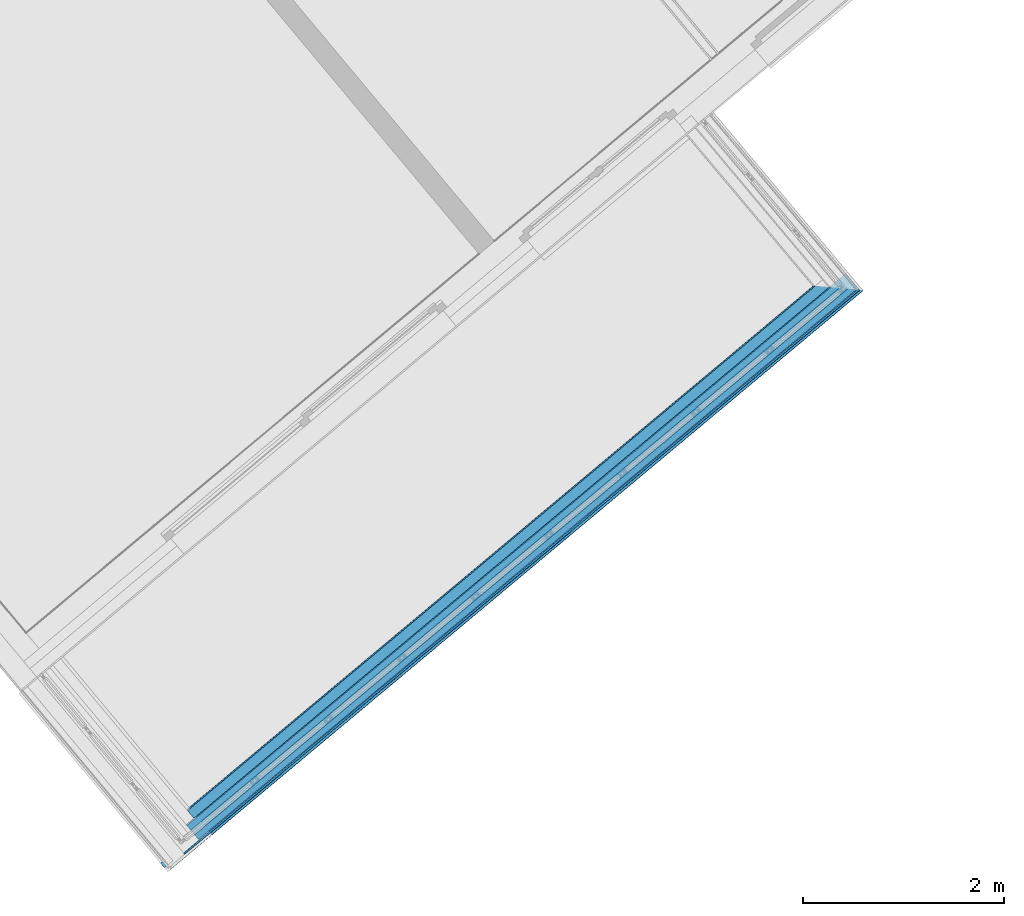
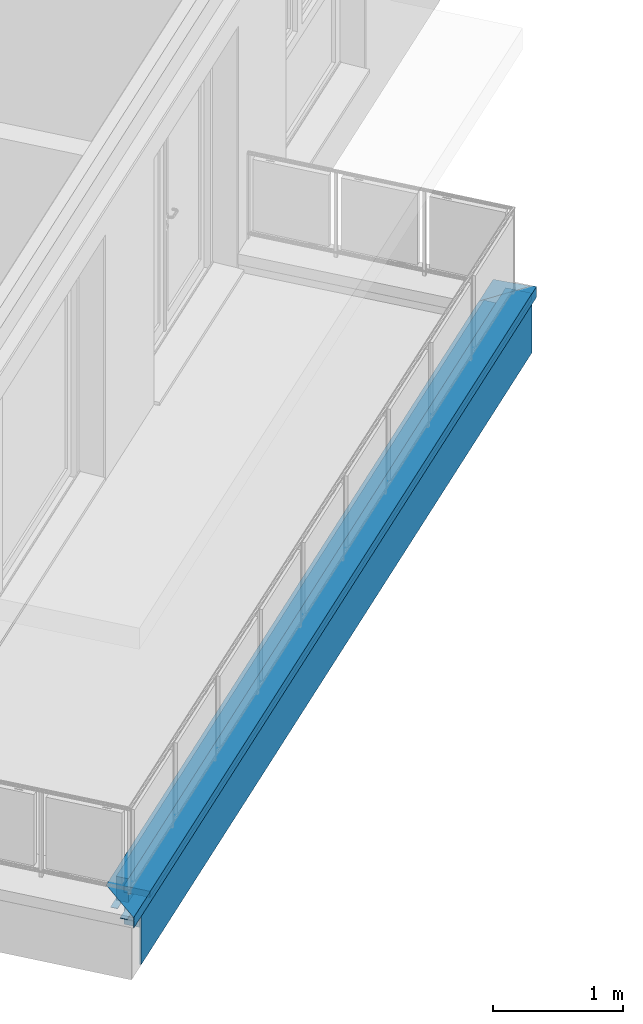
# One storey, part 17 of 50: 8 building element parts, 1 element without a shape of its own.
"""IFC4 building model written with IfcOpenShell, lengths in metres."""

from ifc_helpers import new_model, entity, si_unit, converted_unit, derived_unit, direction, frame, origin_with_axes, place, context, subcontext, project, spatial, polygons, material, type_object, element, aggregate, save


model = new_model("IFC4")

# Units and contexts
model_context = context("Model", 3, precision=1e-05, world=origin_with_axes(), true_north=direction((0.0, 1.0)))
body_context = subcontext(model_context, "Body", "Model", "MODEL_VIEW")
ifc_project = project(units=[si_unit("LENGTHUNIT", "METRE"), si_unit("AREAUNIT", "SQUARE_METRE"), si_unit("VOLUMEUNIT", "CUBIC_METRE"), converted_unit("PLANEANGLEUNIT", "DEGREE", entity("IfcPlaneAngleMeasure", 0.0174532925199), si_unit("PLANEANGLEUNIT", "RADIAN"), dimensions=[0, 0, 0, 0, 0, 0, 0]), converted_unit("TIMEUNIT", "Year", entity("IfcTimeMeasure", 31556926.0), si_unit("TIMEUNIT", "SECOND"), dimensions=[0, 0, 1, 0, 0, 0, 0]), si_unit("MASSUNIT", "GRAM", prefix="KILO"), si_unit("THERMODYNAMICTEMPERATUREUNIT", "DEGREE_CELSIUS"), si_unit("LUMINOUSINTENSITYUNIT", "LUMEN"), si_unit("ENERGYUNIT", "JOULE", prefix="MEGA"), derived_unit("THERMALCONDUCTANCEUNIT", [(si_unit("POWERUNIT", "WATT"), 1), (si_unit("LENGTHUNIT", "METRE"), -1), (si_unit("THERMODYNAMICTEMPERATUREUNIT", "KELVIN"), -1)]), derived_unit("SPECIFICHEATCAPACITYUNIT", [(si_unit("ENERGYUNIT", "JOULE"), 1), (si_unit("MASSUNIT", "GRAM", prefix="KILO"), -1), (si_unit("THERMODYNAMICTEMPERATUREUNIT", "KELVIN"), -1)]), derived_unit("MASSDENSITYUNIT", [(si_unit("MASSUNIT", "GRAM", prefix="KILO"), 1), (si_unit("VOLUMEUNIT", "CUBIC_METRE"), -1)])], contexts=[model_context])

# Site, building, storey
site_placement = place(None, frame((-0.00153261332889, -0.00661245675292, 0.0), z_axis=(0.0, 0.0, 1.0), x_axis=(1.0, 0.0, 0.0)))
site = spatial("IfcSite", under=ifc_project, at=site_placement, Name="Site", CompositionType="ELEMENT")
building_placement = place(site_placement, origin_with_axes())
building = spatial("IfcBuilding", under=site, at=building_placement, Name="Building", CompositionType="ELEMENT")
storey_placement = place(building_placement, frame((0.0, 0.0, 2.74), z_axis=(0.0, 0.0, 1.0), x_axis=(1.0, 0.0, 0.0)))
storey = spatial("IfcBuildingStorey", under=building, at=storey_placement, Name="OG1", CompositionType="ELEMENT", Elevation=2.74)

# Wall, building element parts
wall_type = type_object("IfcWallType", Name="Bauteil - Attika Balkon 356 x 610", PredefinedType="NOTDEFINED")
wall_placement = place(storey_placement, frame((0.456081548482, 6.75437498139, -0.2), z_axis=(0.0, 0.0, 1.0), x_axis=(0.767288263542, 0.641302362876, 0.0)))
wall = element("IfcWall", 1, at=wall_placement, inside=storey, type_object=wall_type, Name="Wand-003", PredefinedType="NOTDEFINED")
ifc_material_1 = material(Name="Stahl")
building_element_part_1_placement = place(wall_placement, origin_with_axes())
building_element_part_1 = element("IfcBuildingElementPart", 2, at=building_element_part_1_placement, material=ifc_material_1, Name="Stahl", PredefinedType="NOTDEFINED", context=body_context, shape_type="Tessellation", body=[
    polygons([(-0.241610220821, -0.241359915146, 0.608602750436), (-0.241610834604, -0.242707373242, 0.608602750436), (-0.24161032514, -0.242707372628, 0.608652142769), (-0.24160949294, -0.24135992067, 0.60865214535), (-0.240263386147, -0.242707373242, 0.608602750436), (-0.240262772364, -0.241359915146, 0.608602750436), (-0.241610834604, -0.242707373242, 0.581921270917), (-0.241610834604, -0.242707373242, 0.575979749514), (-0.240261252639, -0.242707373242, 0.575979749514), (-0.240261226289, -0.242707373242, 0.575576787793), (-0.240261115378, -0.242707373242, 0.573880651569), (-0.240260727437, -0.242707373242, 0.567947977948), (-0.240260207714, -0.242707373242, 0.559999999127), (-0.240257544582, -0.242707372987, 0.519273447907), (-0.240257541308, -0.242707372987, 0.519224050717), (-0.240257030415, -0.242707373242, 0.511410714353), (-0.240207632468, -0.242707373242, 0.511410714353), (-0.23829307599, -0.242707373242, 0.511410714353), (-0.238342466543, -0.242707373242, 0.511361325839), (-0.239646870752, -0.242707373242, 0.510056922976), (8.77665950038, -0.242707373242, 0.510056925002), (8.77665950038, -0.242707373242, 0.610055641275), (0.0, -0.242707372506, 0.610055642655), (0.0, -0.242707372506, 0.610006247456), (-0.241610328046, -0.242707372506, 0.610006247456), (-0.204205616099, -0.242707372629, 0.608652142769), (-0.24026338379, -0.242707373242, 0.608570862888), (-0.240262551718, -0.242707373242, 0.595846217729), (-0.240262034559, -0.242707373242, 0.587937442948), (-0.240261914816, -0.242707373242, 0.586106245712), (-0.240261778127, -0.242707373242, 0.584015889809), (-0.240261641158, -0.242707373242, 0.581921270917), (-0.204205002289, -0.241359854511, 0.608652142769), (-0.24161021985, -0.241357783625, 0.575979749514), (-0.241610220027, -0.241358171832, 0.581921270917), (-0.240261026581, -0.241358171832, 0.581921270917), (-0.240261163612, -0.24135830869, 0.584015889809), (-0.240261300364, -0.24135844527, 0.586106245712), (-0.240261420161, -0.241358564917, 0.587937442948), (-0.240261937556, -0.24135908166, 0.595846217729), (-0.240262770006, -0.241359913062, 0.608570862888), (8.77530901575, -0.241359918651, 0.608652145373), (8.77665646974, -0.24135992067, 0.60865214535), (8.77665645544, -0.241353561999, 0.511410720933), (8.77530264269, -0.241353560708, 0.511410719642), (-0.238292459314, -0.241353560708, 0.511410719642), (-0.240207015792, -0.241353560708, 0.511410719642), (-0.240256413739, -0.241353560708, 0.511410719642), (-0.240256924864, -0.241354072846, 0.519224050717), (-0.240256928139, -0.241354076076, 0.519273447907), (-0.240259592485, -0.241356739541, 0.559999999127), (-0.240260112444, -0.241357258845, 0.567947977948), (-0.240260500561, -0.241357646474, 0.573880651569), (-0.240260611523, -0.241357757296, 0.575576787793), (-0.240260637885, -0.241357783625, 0.575979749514), (-0.23829158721, -0.239439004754, 0.511410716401), (-0.238341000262, -0.239488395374, 0.511361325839), (-0.240603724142, -0.241750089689, 0.509099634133), (8.77570006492, -0.241750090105, 0.509099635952), (8.77665519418, -0.240792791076, 0.510056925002), (8.77665215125, -0.239439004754, 0.511410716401), (8.77657233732, -0.203952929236, 0.60865214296), (-0.204187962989, -0.203952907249, 0.608652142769), (-0.241609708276, -0.241343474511, 0.610006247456), (0.0, -0.241343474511, 0.610006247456), (8.77522488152, -0.203952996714, 0.608652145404), (8.77313639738, -0.201708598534, 0.608570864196), (8.45697235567, 0.113600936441, 0.597151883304), (0.113635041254, 0.113600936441, 0.597151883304), (-0.201941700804, -0.201708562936, 0.608570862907), (-0.20282294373, -0.202589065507, 0.608602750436), (-0.202840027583, -0.240093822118, 0.608602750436), (-0.201958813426, -0.23927647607, 0.608570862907), (8.77322089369, -0.23927649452, 0.608570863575), (8.77529833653, -0.239439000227, 0.511410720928), (-0.240253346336, -0.233490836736, 0.519273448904), (-0.240253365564, -0.233540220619, 0.519224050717), (-0.232390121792, -0.233540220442, 0.519224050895), (-0.231480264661, -0.23454447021, 0.518219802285), (8.7674222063, -0.233490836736, 0.519273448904), (-0.231479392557, -0.232629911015, 0.518219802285), (-0.231524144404, -0.232580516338, 0.518269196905), (8.76842441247, -0.232580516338, 0.518269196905), (8.42090574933, 0.112247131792, 0.5958462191), (8.4209027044, 0.113600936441, 0.5958462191), (0.149702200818, 0.113600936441, 0.595846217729), (8.4209026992, 0.113600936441, 0.586106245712), (8.42090269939, 0.113600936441, 0.584015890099), (8.42090269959, 0.113600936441, 0.581921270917), (8.42090269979, 0.113600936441, 0.579822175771), (8.42090270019, 0.113600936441, 0.575576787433), (8.42090270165, 0.113600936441, 0.560000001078), (8.42090270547, 0.113600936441, 0.519273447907), (8.4209027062, 0.113600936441, 0.511410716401), (8.42090270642, 0.113600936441, 0.509099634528), (8.4209027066, 0.113600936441, 0.506731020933), (8.42090270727, 0.113600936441, 0.499999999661), (8.42090270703, 0.113600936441, 0.498915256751), (8.4228172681, 0.113600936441, 0.498915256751), (8.42146345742, 0.113600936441, 0.497561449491), (0.332103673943, 0.113600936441, 0.497561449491), (0.332103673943, 0.113600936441, 0.498822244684), (0.332103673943, 0.113600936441, 0.498915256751), (0.332103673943, 0.113600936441, 0.499999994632), (0.332103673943, 0.113600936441, 0.506731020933), (0.332103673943, 0.113600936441, 0.509050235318), (0.332103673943, 0.113600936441, 0.509099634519), (0.332103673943, 0.113600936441, 0.51136132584), (0.332103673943, 0.113600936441, 0.511410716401), (0.332103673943, 0.113600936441, 0.519224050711), (0.332103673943, 0.113600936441, 0.519273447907), (0.332103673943, 0.113600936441, 0.560000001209), (0.332103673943, 0.113600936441, 0.567947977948), (0.332103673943, 0.113600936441, 0.573880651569), (0.332103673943, 0.113600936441, 0.575576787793), (0.332103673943, 0.113600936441, 0.575979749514), (0.332103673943, 0.113600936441, 0.57982217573), (0.332103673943, 0.113600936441, 0.581921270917), (0.332103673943, 0.113600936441, 0.584015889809), (0.332103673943, 0.113600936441, 0.586106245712), (0.332103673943, 0.113600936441, 0.587937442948), (0.332103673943, 0.113600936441, 0.589243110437), (0.149701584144, 0.112247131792, 0.595846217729), (-0.240253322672, -0.233446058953, 0.519224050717), (-0.2323900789, -0.233446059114, 0.519224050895), (8.42090574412, 0.112247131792, 0.586106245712), (8.42090574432, 0.112247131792, 0.584015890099), (8.42090574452, 0.112247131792, 0.581921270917), (8.42090574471, 0.112247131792, 0.579822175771), (8.42090574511, 0.112247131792, 0.575576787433), (8.42090574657, 0.112247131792, 0.560000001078), (8.42090575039, 0.112247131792, 0.519273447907), (8.42090575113, 0.112247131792, 0.511410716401), (8.42090575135, 0.112247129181, 0.509099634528), (8.42090575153, 0.112247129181, 0.506731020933), (8.4209057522, 0.112247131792, 0.499999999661), (8.42090575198, 0.112247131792, 0.498915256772), (8.42282031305, 0.112247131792, 0.498915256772), (8.42282461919, 0.110332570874, 0.498915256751), (8.42050832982, 0.112643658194, 0.496604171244), (0.332103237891, 0.112643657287, 0.496604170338), (0.332102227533, 0.110425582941, 0.498822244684), (0.332103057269, 0.112247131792, 0.498915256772), (0.332102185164, 0.110332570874, 0.498915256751), (0.332103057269, 0.112247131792, 0.499999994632), (0.332103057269, 0.112247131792, 0.506731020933), (0.332103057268, 0.112247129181, 0.509050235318), (0.332103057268, 0.112247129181, 0.509099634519), (0.332103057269, 0.112247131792, 0.51136132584), (0.332103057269, 0.112247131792, 0.511410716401), (0.332103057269, 0.112247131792, 0.519224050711), (0.332103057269, 0.112247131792, 0.519273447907), (0.332103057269, 0.112247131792, 0.560000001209), (0.332103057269, 0.112247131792, 0.567947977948), (0.332103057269, 0.112247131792, 0.573880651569), (0.332103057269, 0.112247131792, 0.575576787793), (0.332103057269, 0.112247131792, 0.575979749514), (0.332103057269, 0.112247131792, 0.57982217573), (0.332103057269, 0.112247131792, 0.581921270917), (0.332103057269, 0.112247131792, 0.584015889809), (0.332103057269, 0.112247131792, 0.586106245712), (0.332103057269, 0.112247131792, 0.587937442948), (0.332103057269, 0.112247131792, 0.589243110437), (0.330748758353, 0.11116240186, 0.499999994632), (0.300050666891, 0.11116240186, 0.499999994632), (0.300047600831, 0.104431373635, 0.506731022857), (8.42873910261, 0.104431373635, 0.506731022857), (8.42974130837, 0.10534169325, 0.505820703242), (8.42390749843, 0.11116239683, 0.499999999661), (0.33074925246, 0.112247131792, 0.498915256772), (0.300049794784, 0.109247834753, 0.499999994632), (0.330747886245, 0.109247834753, 0.499999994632), (0.330748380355, 0.110332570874, 0.498915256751), (8.4239118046, 0.109247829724, 0.499999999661), (8.42974561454, 0.103427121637, 0.505820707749), (0.300047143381, 0.103427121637, 0.505820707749)], [[[1, 2, 3, 4]], [[5, 2, 1, 6]], [[7, 8, 9, 10, 11, 12, 13, 14, 15, 16, 17, 18, 19, 20, 21, 22, 23, 24, 25, 26, 3, 2, 5, 27, 28, 29, 30, 31, 32]], [[4, 3, 26, 33]], [[34, 35, 36, 37, 38, 39, 40, 41, 6, 1, 4, 33, 42, 43, 44, 45, 46, 47, 48, 49, 50, 51, 52, 53, 54, 55]], [[27, 5, 6, 41]], [[8, 7, 35, 34]], [[9, 8, 34, 55]], [[10, 9, 55, 54]], [[11, 10, 54, 53]], [[12, 11, 53, 52]], [[13, 12, 52, 51]], [[14, 13, 51, 50]], [[15, 14, 50, 49]], [[48, 16, 15, 49]], [[16, 48, 47, 17]], [[17, 47, 46, 18]], [[56, 57, 19, 18, 46]], [[57, 58, 20, 19]], [[20, 58, 59, 21]], [[21, 60, 61, 44, 43, 62, 22]], [[63, 64, 65, 23, 22, 62, 66, 67, 68, 69, 70, 71]], [[65, 24, 23]], [[64, 25, 24, 65]], [[25, 64, 63, 33, 26]], [[28, 27, 41, 40]], [[29, 28, 40, 39]], [[30, 29, 39, 38]], [[31, 30, 38, 37]], [[32, 31, 37, 36]], [[35, 7, 32, 36]], [[72, 73, 74, 42, 33]], [[42, 66, 62, 43]], [[75, 45, 44, 61]], [[76, 77, 78, 79, 46, 45, 80]], [[58, 57, 56, 81, 82, 83, 75, 61, 60, 59]], [[56, 46, 79, 81]], [[21, 59, 60]], [[67, 66, 42, 74]], [[67, 74, 84, 85, 68]], [[86, 69, 68, 85, 87, 88, 89, 90, 91, 92, 93, 94, 95, 96, 97, 98, 99, 100, 101, 102, 103, 104, 105, 106, 107, 108, 109, 110, 111, 112, 113, 114, 115, 116, 117, 118, 119, 120, 121, 122]], [[123, 73, 70, 69, 86]], [[71, 70, 73, 72]], [[63, 71, 72, 33]], [[73, 123, 84, 74]], [[45, 75, 83, 80]], [[76, 124, 77]], [[77, 124, 125, 78]], [[125, 82, 81, 79, 78]], [[124, 76, 80, 83, 82, 125]], [[84, 126, 87, 85]], [[126, 127, 88, 87]], [[89, 88, 127, 128]], [[90, 89, 128, 129]], [[91, 90, 129, 130]], [[130, 131, 92, 91]], [[131, 132, 93, 92]], [[132, 133, 94, 93]], [[133, 134, 95, 94]], [[134, 135, 96, 95]], [[135, 136, 97, 96]], [[136, 137, 98, 97]], [[98, 137, 138, 99]], [[139, 140, 100, 99, 138]], [[141, 101, 100, 140]], [[142, 102, 101, 141]], [[143, 103, 102, 142, 144]], [[103, 143, 145, 104]], [[104, 145, 146, 105]], [[147, 106, 105, 146]], [[106, 147, 148, 107]], [[148, 149, 108, 107]], [[149, 150, 109, 108]], [[150, 151, 110, 109]], [[151, 152, 111, 110]], [[152, 153, 112, 111]], [[153, 154, 113, 112]], [[154, 155, 114, 113]], [[155, 156, 115, 114]], [[115, 156, 157, 116]], [[116, 157, 158, 117]], [[117, 158, 159, 118]], [[118, 159, 160, 119]], [[119, 160, 161, 120]], [[120, 161, 162, 121]], [[121, 162, 163, 122]], [[123, 86, 122, 163]], [[145, 143, 137, 136, 135, 134, 133, 132, 131, 130, 129, 128, 127, 126, 84, 123, 163, 162, 161, 160, 159, 158, 157, 156, 155, 154, 153, 152, 151, 150, 149, 148, 147, 146]], [[164, 165, 166, 167, 168, 169, 138, 137, 143, 170]], [[171, 172, 173, 144, 142, 141, 140, 139, 174, 175, 176]], [[174, 139, 138, 169]], [[170, 143, 144, 173]], [[171, 165, 164, 172]], [[165, 171, 176, 166]], [[166, 176, 175, 167]], [[168, 167, 175]], [[175, 174, 169, 168]], [[164, 170, 173, 172]]], closed=True),
])
ifc_material_2 = material(Name="Holzwerkstoff")
building_element_part_2_placement = place(wall_placement, origin_with_axes())
building_element_part_2 = element("IfcBuildingElementPart", 3, at=building_element_part_2_placement, material=ifc_material_2, Name="Holzwerkstoff", PredefinedType="NOTDEFINED", context=body_context, shape_type="Tessellation", body=[
    polygons([(0.330547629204, -0.189984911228, 0.586106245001), (0.330501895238, -0.13012497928, 0.584015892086), (8.66382360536, -0.130124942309, 0.584015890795), (8.72381840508, -0.189984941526, 0.586106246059), (0.330612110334, 0.111834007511, 0.584015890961), (0.330685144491, 0.111907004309, 0.586106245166), (0.330456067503, -0.0701429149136, 0.581921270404), (8.60370647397, -0.0701429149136, 0.581921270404), (8.66327940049, 0.111834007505, 0.584015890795), (8.72313932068, 0.111907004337, 0.586106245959), (0.330585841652, -0.23999998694, 0.587852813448), (8.77394602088, -0.239999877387, 0.587852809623), (0.330538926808, 0.111760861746, 0.581921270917), (0.330749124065, 0.111970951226, 0.587937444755), (0.330588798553, -0.239997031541, 0.587937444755), (0.112278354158, 0.112247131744, 0.595846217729), (8.77287462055, 0.112247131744, 0.595846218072), (8.77315438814, 0.111967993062, 0.587852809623), (8.60329734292, 0.111760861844, 0.581921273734), (8.54318713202, 0.111687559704, 0.579822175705), (8.42161516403, 0.111539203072, 0.575576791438), (0.33031725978, 0.111539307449, 0.575576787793), (0.330331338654, 0.111553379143, 0.57597974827), (0.330465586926, 0.111687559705, 0.57982217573), (0.330410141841, -0.0100326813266, 0.579822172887), (8.54346090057, -0.0100326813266, 0.579822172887), (-0.239385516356, -0.239276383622, 0.608570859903), (0.112118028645, -0.239720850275, 0.595846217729), (8.77366625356, -0.239720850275, 0.595846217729), (8.77322089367, -0.23927649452, 0.608570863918), (0.330326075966, 0.100000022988, 0.575979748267)], [[[1, 2, 3, 4]], [[5, 2, 1, 6]], [[2, 7, 8, 3]], [[9, 10, 4, 3]], [[11, 1, 4, 12]], [[7, 2, 5, 13]], [[14, 6, 1, 11, 15]], [[14, 16, 17, 18, 10, 9, 19, 20, 21, 22, 23, 24, 13, 5, 6]], [[7, 25, 26, 8]], [[8, 19, 9, 3]], [[10, 18, 12, 4]], [[27, 28, 15, 11, 12, 29, 30]], [[25, 7, 13, 24]], [[28, 16, 14, 15]], [[16, 27, 30, 17]], [[18, 17, 29, 12]], [[8, 26, 20, 19]], [[26, 21, 20]], [[31, 22, 21, 26, 25]], [[23, 22, 31]], [[25, 24, 23, 31]], [[16, 28, 27]], [[30, 29, 17]]], closed=True),
])
ifc_material_3 = material(Name="EPS 1")
building_element_part_3_placement = place(wall_placement, origin_with_axes())
building_element_part_3 = element("IfcBuildingElementPart", 4, at=building_element_part_3_placement, material=ifc_material_3, Name="EPS 1", PredefinedType="NOTDEFINED", context=body_context, shape_type="Tessellation", body=[
    polygons([(0.300000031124, -2.3990853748e-10, 0.335), (0.300000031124, -2.3990853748e-10, 0.488695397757), (0.300045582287, 0.0999999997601, 0.488695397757), (0.300045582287, 0.0999999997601, 0.335), (8.53340562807, -2.3990853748e-10, 0.334999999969), (8.53340562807, -2.3990853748e-10, 0.496604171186), (8.53340562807, -2.3990853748e-10, 0.498915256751), (8.53340562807, -2.3990853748e-10, 0.500000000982), (8.53340562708, -2.39907649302e-10, 0.506731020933), (8.53340562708, -2.39905872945e-10, 0.509099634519), (8.53340562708, -1.02249231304e-09, 0.511410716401), (8.53340562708, -1.02255448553e-09, 0.519273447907), (8.53340562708, -1.02287334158e-09, 0.560000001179), (0.300000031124, -2.39909425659e-10, 0.560000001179), (0.300000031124, 1.28497745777e-09, 0.519273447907), (0.300000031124, 1.28497745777e-09, 0.519224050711), (0.300000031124, -2.39907649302e-10, 0.511410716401), (0.300000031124, -2.39907649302e-10, 0.51136132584), (0.300000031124, -2.39907649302e-10, 0.509099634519), (0.300000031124, -2.39907649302e-10, 0.509050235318), (0.300000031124, -2.39907649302e-10, 0.506731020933), (0.300000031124, -2.39907649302e-10, 0.499999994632), (0.300000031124, -2.39907649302e-10, 0.498915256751), (0.300000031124, -2.39907649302e-10, 0.498822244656), (0.300000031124, -2.39907649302e-10, 0.496604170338), (0.300000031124, -2.3990853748e-10, 0.491006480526), (0.300045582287, 0.0999999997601, 0.491006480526), (0.300045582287, 0.0999999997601, 0.496604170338), (0.300045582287, 0.0999999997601, 0.498822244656), (0.300045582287, 0.0999999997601, 0.498915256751), (0.300045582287, 0.0999999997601, 0.499999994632), (0.300045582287, 0.0999999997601, 0.506731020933), (0.300045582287, 0.0999999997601, 0.509050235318), (0.300045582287, 0.0999999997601, 0.509099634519), (0.300045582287, 0.0999999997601, 0.51136132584), (0.300045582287, 0.0999999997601, 0.511410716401), (0.300045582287, 0.0999999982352, 0.519224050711), (0.300045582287, 0.0999999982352, 0.519273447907), (0.300045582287, 0.0999999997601, 0.560000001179), (8.53318071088, 0.100000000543, 0.560000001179), (8.53318071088, 0.100000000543, 0.519273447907), (8.53318071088, 0.100000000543, 0.511410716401), (8.53318071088, 0.0999999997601, 0.509099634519), (8.53318071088, 0.0999999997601, 0.506731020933), (8.53318071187, 0.0999999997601, 0.500000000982), (8.53318071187, 0.0999999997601, 0.498915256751), (8.53318071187, 0.0999999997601, 0.496604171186), (8.53318071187, 0.0999999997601, 0.334999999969)], [[[1, 2, 3, 4]], [[2, 1, 5, 6, 7, 8, 9, 10, 11, 12, 13, 14, 15, 16, 17, 18, 19, 20, 21, 22, 23, 24, 25, 26]], [[2, 26, 27, 3]], [[4, 3, 27, 28, 29, 30, 31, 32, 33, 34, 35, 36, 37, 38, 39, 40, 41, 42, 43, 44, 45, 46, 47, 48]], [[1, 4, 48, 5]], [[6, 5, 48, 47]], [[7, 6, 47, 46]], [[8, 7, 46, 45]], [[9, 8, 45, 44]], [[10, 9, 44, 43]], [[11, 10, 43, 42]], [[42, 41, 12, 11]], [[41, 40, 13, 12]], [[39, 14, 13, 40]], [[14, 39, 38, 15]], [[37, 16, 15, 38]], [[36, 17, 16, 37]], [[35, 18, 17, 36]], [[34, 19, 18, 35]], [[19, 34, 33, 20]], [[32, 21, 20, 33]], [[21, 32, 31, 22]], [[30, 23, 22, 31]], [[29, 24, 23, 30]], [[28, 25, 24, 29]], [[26, 25, 28, 27]]], closed=True),
])
ifc_material_4 = material(Name="Vollholz")
building_element_part_4_placement = place(wall_placement, origin_with_axes())
building_element_part_4 = element("IfcBuildingElementPart", 5, at=building_element_part_4_placement, material=ifc_material_4, Name="Vollholz", PredefinedType="NOTDEFINED", context=body_context, shape_type="Tessellation", body=[
    polygons([(-0.130156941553, -0.0701429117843, 0.575979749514), (-0.130129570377, -0.0100540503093, 0.575979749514), (0.0999954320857, -0.010054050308, 0.575979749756), (0.0999680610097, -0.0701429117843, 0.575979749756), (-0.130156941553, -0.0701429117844, 0.57982217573), (-0.130129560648, -0.0100326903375, 0.57982217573), (8.60357127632, -0.0100326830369, 0.579822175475), (8.60357132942, -0.0100562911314, 0.575576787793), (8.60357152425, -0.0101429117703, 0.560000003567), (0.159995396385, -0.0101429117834, 0.560000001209), (0.160058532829, -0.0100987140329, 0.567947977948), (0.160105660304, -0.0100657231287, 0.573880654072), (0.111534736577, -0.0100562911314, 0.575576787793), (0.111507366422, -0.0701429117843, 0.575576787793), (0.160078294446, -0.0701429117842, 0.573880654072), (0.160031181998, -0.0701429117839, 0.567947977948), (0.159968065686, -0.0701429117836, 0.560000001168), (8.60370647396, -0.0701429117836, 0.560000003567), (8.60370647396, -0.0701429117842, 0.575576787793), (8.60370647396, -0.0701429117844, 0.57982217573), (8.60370647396, -0.0701429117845, 0.581921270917), (-0.130156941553, -0.0701429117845, 0.581921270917)], [[[1, 2, 3, 4]], [[1, 5, 6, 2]], [[2, 6, 7, 8, 9, 10, 11, 12, 13, 3]], [[3, 13, 14, 4]], [[5, 1, 4, 14, 15, 16, 17, 18, 19, 20, 21, 22]], [[5, 22, 6]], [[6, 22, 21, 7]], [[8, 7, 20, 19]], [[9, 8, 19, 18]], [[17, 10, 9, 18]], [[10, 17, 16, 11]], [[16, 15, 12, 11]], [[14, 13, 12, 15]], [[21, 20, 7]]], closed=True),
])
ifc_material_5 = material(Name="Stahlbeton")
building_element_part_5_placement = place(wall_placement, origin_with_axes())
building_element_part_5 = element("IfcBuildingElementPart", 6, at=building_element_part_5_placement, material=ifc_material_5, Name="Stahlbeton", PredefinedType="NOTDEFINED", context=body_context, shape_type="Tessellation", body=[
    polygons([(8.73385592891, -0.19999996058, 0.498915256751), (8.73385592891, -0.199999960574, 0.500000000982), (0.199908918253, -0.199999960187, 0.500000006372), (0.199908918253, -0.19999996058, 0.498915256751), (0.199908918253, -0.19999996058, 0.498822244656), (0.199908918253, -0.19999996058, 0.496604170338), (0.199908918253, -0.19999996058, 0.491006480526), (0.199908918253, -0.19999996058, 0.488695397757), (0.199908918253, -0.19999996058, 0.334999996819), (0.199908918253, -0.19999996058, 0.200000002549), (8.73385592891, -0.19999996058, 0.2), (8.73385592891, -0.19999996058, 0.334999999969), (8.73385592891, -0.19999996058, 0.496604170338), (8.73340609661, -1.0464678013e-09, 0.500000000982), (8.73340609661, -1.04714992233e-09, 0.498915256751), (0.200000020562, -6.59100329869e-10, 0.500000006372), (0.200000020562, -1.04714903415e-09, 0.498915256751), (0.200000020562, -1.04714903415e-09, 0.498822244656), (0.200000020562, -1.04714903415e-09, 0.496604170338), (0.200000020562, -1.04714903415e-09, 0.491006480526), (0.200000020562, -1.04714903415e-09, 0.488695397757), (0.200000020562, -1.05297282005e-09, 0.334999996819), (0.200000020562, -1.05297193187e-09, 0.200000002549), (8.73340609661, -1.05297282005e-09, 0.2), (8.73340609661, -1.05297282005e-09, 0.334999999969), (8.73340609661, -1.04714992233e-09, 0.496604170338)], [[[1, 2, 3, 4, 5, 6, 7, 8, 9, 10, 11, 12, 13]], [[14, 2, 1, 15]], [[2, 14, 16, 3]], [[4, 3, 16, 17]], [[4, 17, 18, 5]], [[5, 18, 19, 6]], [[6, 19, 20, 7]], [[7, 20, 21, 8]], [[8, 21, 22, 9]], [[9, 22, 23, 10]], [[24, 11, 10, 23]], [[25, 12, 11, 24]], [[26, 13, 12, 25]], [[15, 1, 13, 26]], [[14, 15, 26, 25, 22, 21, 20, 19, 18, 17, 16]], [[25, 24, 23, 22]]], closed=True),
])
ifc_material_6 = material(Name="Brettschichtholz")
building_element_part_6_placement = place(wall_placement, origin_with_axes())
building_element_part_6 = element("IfcBuildingElementPart", 7, at=building_element_part_6_placement, material=ifc_material_6, Name="Brettschichtholz", PredefinedType="NOTDEFINED", context=body_context, shape_type="Tessellation", body=[
    polygons([(0.200000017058, 0.0, 0.51136132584), (0.199902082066, -0.214999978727, 0.51136132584), (0.199902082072, -0.214999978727, 0.511410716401), (0.200000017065, 0.0, 0.511410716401), (0.200000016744, 0.0, 0.509099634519), (0.199902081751, -0.214999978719, 0.509099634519), (0.199902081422, -0.214999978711, 0.506731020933), (0.199902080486, -0.214999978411, 0.500000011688), (8.7488897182, -0.214999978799, 0.499999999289), (8.7488897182, -0.214999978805, 0.509099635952), (8.74888971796, -0.214999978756, 0.511410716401), (8.74888971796, -0.214999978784, 0.519273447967), (8.74888971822, -0.214999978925, 0.56000000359), (0.19990208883, -0.214999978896, 0.560000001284), (0.199902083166, -0.214999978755, 0.519273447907), (0.199902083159, -0.214999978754, 0.519224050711), (0.199902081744, -0.214999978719, 0.509050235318), (0.200000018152, 0.0, 0.519224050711), (0.200000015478, 3.31760396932e-10, 0.500000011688), (0.200000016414, 0.0, 0.506731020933), (0.200000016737, 0.0, 0.509050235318), (0.200000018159, 0.0, 0.519273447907), (0.200000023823, -1.53405288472e-10, 0.560000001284), (8.74840614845, -1.82521553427e-10, 0.56000000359), (8.74840614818, 0.0, 0.519273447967), (8.74840614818, 0.0, 0.511410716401), (8.74840614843, 0.0, 0.509099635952), (8.74840614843, 0.0, 0.499999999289), (8.74842896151, -0.010142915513, 0.559999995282), (8.74856391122, -0.0701429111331, 0.559999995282), (8.74869882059, -0.130124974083, 0.559999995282), (8.74883377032, -0.190124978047, 0.559999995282), (0.199913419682, -0.190124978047, 0.559999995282), (0.199940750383, -0.130124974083, 0.559999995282), (0.19996807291, -0.0701429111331, 0.559999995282), (0.199995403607, -0.010142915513, 0.559999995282)], [[[1, 2, 3, 4]], [[5, 6, 2, 1]], [[7, 8, 9, 10, 11, 12, 13, 14, 15, 16, 3, 2, 6, 17]], [[4, 3, 16, 18]], [[19, 20, 21, 5, 1, 4, 18, 22, 23, 24, 25, 26, 27, 28]], [[6, 5, 21, 17]], [[19, 8, 7, 20]], [[8, 19, 28, 9]], [[28, 27, 10, 9]], [[27, 26, 11, 10]], [[26, 25, 12, 11]], [[29, 30, 31, 32, 13, 12, 25, 24]], [[33, 14, 13, 32]], [[34, 35, 36, 23, 22, 15, 14, 33]], [[18, 16, 15, 22]], [[20, 7, 17, 21]], [[23, 36, 29, 24]], [[36, 35, 30, 29]], [[35, 34, 31, 30]], [[34, 33, 32, 31]]], closed=True),
])
building_element_part_7_placement = place(wall_placement, origin_with_axes())
building_element_part_7 = element("IfcBuildingElementPart", 8, at=building_element_part_7_placement, material=ifc_material_4, Name="Vollholz", PredefinedType="NOTDEFINED", context=body_context, shape_type="Tessellation", body=[
    polygons([(-0.241586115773, -0.190039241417, 0.575979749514), (-0.241586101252, -0.190007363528, 0.581921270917), (-0.241558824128, -0.130124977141, 0.581921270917), (-0.241558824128, -0.130124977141, 0.575979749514), (-0.240237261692, -0.190039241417, 0.575979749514), (-0.190125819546, -0.190039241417, 0.575979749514), (-0.130211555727, -0.190039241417, 0.575979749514), (-0.130211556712, -0.190041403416, 0.575576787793), (-0.130211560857, -0.190050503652, 0.573880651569), (-0.130211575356, -0.19008233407, 0.567947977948), (-0.13021159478, -0.190124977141, 0.560000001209), (8.72395870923, -0.190124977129, 0.560000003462), (8.72387494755, -0.190041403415, 0.575576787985), (8.72385211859, -0.190018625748, 0.57982217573), (8.72384083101, -0.190007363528, 0.581921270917), (8.7238295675, -0.189996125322, 0.584015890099), (8.72381840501, -0.189984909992, 0.586106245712), (-0.190071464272, -0.18998491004, 0.586106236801), (-0.130211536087, -0.189996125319, 0.584015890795), (-0.130211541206, -0.190007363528, 0.581921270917), (-0.190093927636, -0.190007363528, 0.581921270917), (-0.240237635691, -0.190007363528, 0.581921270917), (-0.240210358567, -0.130124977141, 0.581921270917), (-0.240209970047, -0.130124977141, 0.575979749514), (-0.190066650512, -0.130124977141, 0.581921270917), (-0.130184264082, -0.130124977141, 0.581921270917), (-0.130184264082, -0.130124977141, 0.584015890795), (8.72369490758, -0.130124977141, 0.584015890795), (8.72370614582, -0.130124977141, 0.581921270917), (8.72371740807, -0.130124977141, 0.57982217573), (8.7237401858, -0.130124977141, 0.575576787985), (8.72382375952, -0.130124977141, 0.560000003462), (-0.130184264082, -0.130124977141, 0.560000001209), (-0.130184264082, -0.130124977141, 0.567947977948), (-0.130184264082, -0.130124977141, 0.573880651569), (-0.130184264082, -0.130124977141, 0.575576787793), (-0.130184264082, -0.130124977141, 0.575979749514), (-0.190098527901, -0.130124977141, 0.575979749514)], [[[1, 2, 3, 4]], [[1, 5, 6, 7, 8, 9, 10, 11, 12, 13, 14, 15, 16, 17, 18, 19, 20, 21, 22, 2]], [[2, 22, 23, 3]], [[24, 4, 3, 23, 25, 26, 27, 28, 29, 30, 31, 32, 33, 34, 35, 36, 37, 38]], [[5, 1, 4, 24]], [[6, 5, 24, 38]], [[6, 38, 37, 7]], [[37, 36, 8, 7]], [[36, 35, 9, 8]], [[10, 9, 35, 34]], [[33, 11, 10, 34]], [[11, 33, 32, 12]], [[13, 12, 32, 31]], [[31, 30, 14, 13]], [[30, 29, 15, 14]], [[29, 28, 16, 15]], [[16, 28, 17]], [[27, 18, 17, 28]], [[19, 18, 27]], [[27, 26, 20, 19]], [[25, 21, 20, 26]], [[22, 21, 25, 23]]], closed=True),
])
ifc_material_7 = material(Name="Zementputz")
building_element_part_8_placement = place(wall_placement, origin_with_axes())
building_element_part_8 = element("IfcBuildingElementPart", 9, at=building_element_part_8_placement, material=ifc_material_7, Name="Zementputz", PredefinedType="NOTDEFINED", context=body_context, shape_type="Tessellation", body=[
    polygons([(-9.11052132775e-05, -0.19999996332, 0.500000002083), (-9.79378946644e-05, -0.214999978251, 0.500000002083), (8.7488897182, -0.214999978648, 0.499999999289), (8.74885598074, -0.199999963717, 0.499999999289), (-9.79378955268e-05, -0.214999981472, 0.498915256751), (-9.11052128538e-05, -0.199999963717, 0.498915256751), (-9.79378954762e-05, -0.214999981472, 0.498822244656), (-9.79378942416e-05, -0.214999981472, 0.496604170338), (-9.7937891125e-05, -0.214999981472, 0.491006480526), (-9.79378898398e-05, -0.214999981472, 0.488695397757), (-9.79378042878e-05, -0.214999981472, 0.335), (-9.79377291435e-05, -0.214999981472, 0.200000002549), (-9.79378948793e-05, -0.214999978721, 0.0), (8.7488884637, -0.214999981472, 0.0), (8.74885477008, -0.199999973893, 0.0), (8.74885598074, -0.199999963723, 0.200000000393), (-9.1105046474e-05, -0.199999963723, 0.200000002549), (-9.11051216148e-05, -0.199999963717, 0.335), (-9.11052071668e-05, -0.199999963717, 0.488695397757), (-9.11052084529e-05, -0.199999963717, 0.491006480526), (-9.11052115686e-05, -0.199999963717, 0.496604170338), (-9.11052128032e-05, -0.199999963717, 0.498822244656), (-9.11052168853e-05, -0.199999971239, 0.0)], [[[1, 2, 3, 4]], [[5, 2, 1, 6]], [[2, 5, 7, 8, 9, 10, 11, 12, 13, 14, 3]], [[4, 3, 14, 15, 16]], [[6, 1, 4, 16, 17, 18, 19, 20, 21, 22]], [[5, 6, 22, 7]], [[7, 22, 21, 8]], [[8, 21, 20, 9]], [[9, 20, 19, 10]], [[10, 19, 18, 11]], [[11, 18, 17, 12]], [[12, 17, 23, 13]], [[13, 23, 15, 14]], [[23, 17, 16, 15]]], closed=True),
])
aggregate(wall, [building_element_part_1, building_element_part_2, building_element_part_3, building_element_part_4, building_element_part_5, building_element_part_6, building_element_part_7, building_element_part_8])

save(model, "model.ifc")
